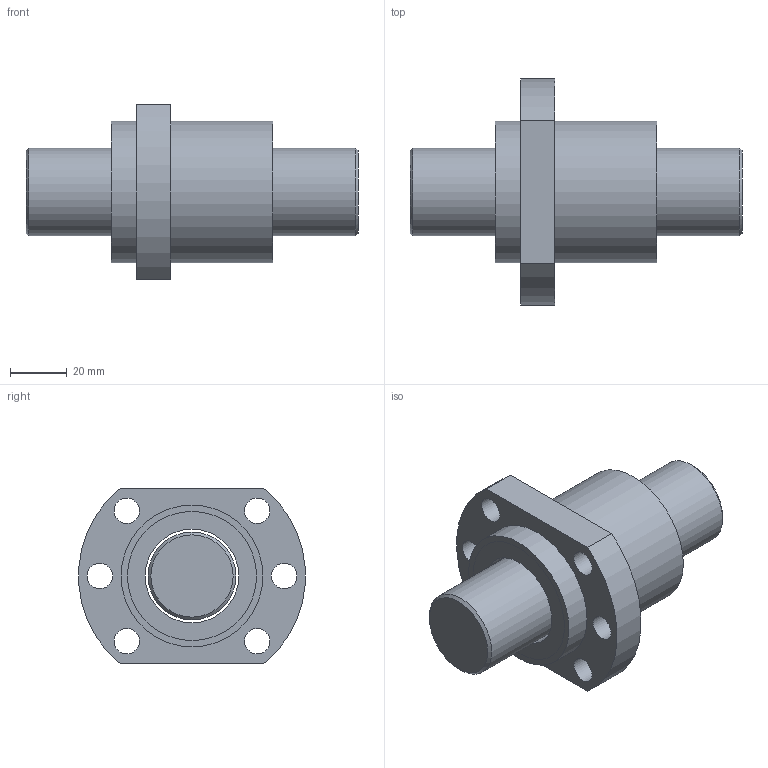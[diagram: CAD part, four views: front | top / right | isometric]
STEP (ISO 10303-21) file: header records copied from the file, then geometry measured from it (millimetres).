
FILE_DESCRIPTION(/* description */ (''),/* implementation_level */ '2;1');
FILE_NAME(/* name */ 'SFH3210-3.8.stp',/* time_stamp */ '2014-10-15T13:12:26+08:00',/* author */ (''),/* organization */ (''),/* preprocessor_version */ 'ST-DEVELOPER v11',/* originating_system */ 'SIEMENS UGS NX 6.0',/* authorisation */ '');
FILE_SCHEMA (('CONFIG_CONTROL_DESIGN'));
Length unit declared in the file: millimetre
Products named in the file (1): fannB1F9gme3
Bounding box: 117 x 79.74 x 62 mm (x, y, z)
Volume: 176094.4 mm3; surface area: 44933.9 mm2
Topology: 4 solids, 4 shells, 50 faces, 90 edges, 60 vertices
Faces by surface type: cylinder 26, plane 22, cone 2
Full cylindrical faces by diameter (mm): 9 x6, 31 x1, 33 x3, 42 x4, 45.5 x4, 47 x4, 50 x2
Entity records: 1216 total; most frequent: DIRECTION 218, CARTESIAN_POINT 171, ORIENTED_EDGE 124, EDGE_LOOP 106, AXIS2_PLACEMENT_3D 105, FACE_BOUND 100, EDGE_CURVE 62, VERTEX_POINT 58
